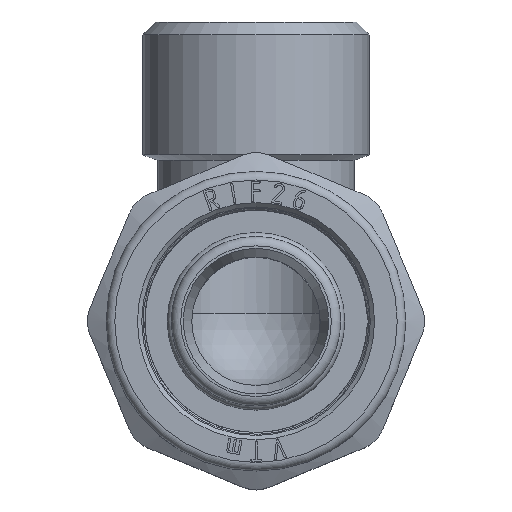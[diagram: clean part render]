
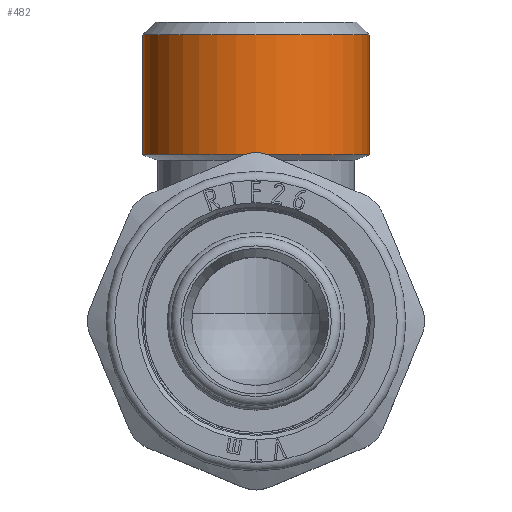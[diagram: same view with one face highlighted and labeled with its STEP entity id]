
A CAD part, top view. The second image highlights one B-rep face of the part: STEP entity #482.
In plain terms, the highlighted cylindrical face has radius 13.22 mm (diameter 26.441 mm), a full revolution.
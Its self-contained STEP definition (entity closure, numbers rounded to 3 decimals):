
#482=ADVANCED_FACE('',(#3508,#3510),#3512,.T.);
#3508=FACE_OUTER_BOUND('',#3509,.T.);
#3509=EDGE_LOOP('',(#6750));
#3510=FACE_OUTER_BOUND('',#3511,.T.);
#3511=EDGE_LOOP('',(#6751));
#3512=CYLINDRICAL_SURFACE('',#3513,13.221);
#3513=AXIS2_PLACEMENT_3D('',#3514,#3515,#3516);
#3514=CARTESIAN_POINT('',(0.,19.5,0.));
#3515=DIRECTION('',(0.,1.,0.));
#3516=DIRECTION('',(0.,0.,1.));
#6750=ORIENTED_EDGE('',*,*,#8022,.F.);
#6751=ORIENTED_EDGE('',*,*,#7984,.F.);
#7984=EDGE_CURVE('',#9986,#9986,#9987,.F.);
#8022=EDGE_CURVE('',#10044,#10044,#10045,.T.);
#9986=VERTEX_POINT('',#16720);
#9987=CIRCLE('',#16721,13.221);
#10044=VERTEX_POINT('',#16856);
#10045=CIRCLE('',#16857,13.221);
#16720=CARTESIAN_POINT('',(0.,19.5,13.221));
#16721=AXIS2_PLACEMENT_3D('',#16722,#16723,#16724);
#16722=CARTESIAN_POINT('',(0.,19.5,0.));
#16723=DIRECTION('',(0.,1.,0.));
#16724=DIRECTION('',(0.,0.,1.));
#16856=CARTESIAN_POINT('',(0.,33.5,13.221));
#16857=AXIS2_PLACEMENT_3D('',#16858,#16859,#16860);
#16858=CARTESIAN_POINT('',(0.,33.5,0.));
#16859=DIRECTION('',(0.,1.,0.));
#16860=DIRECTION('',(0.,0.,1.));
